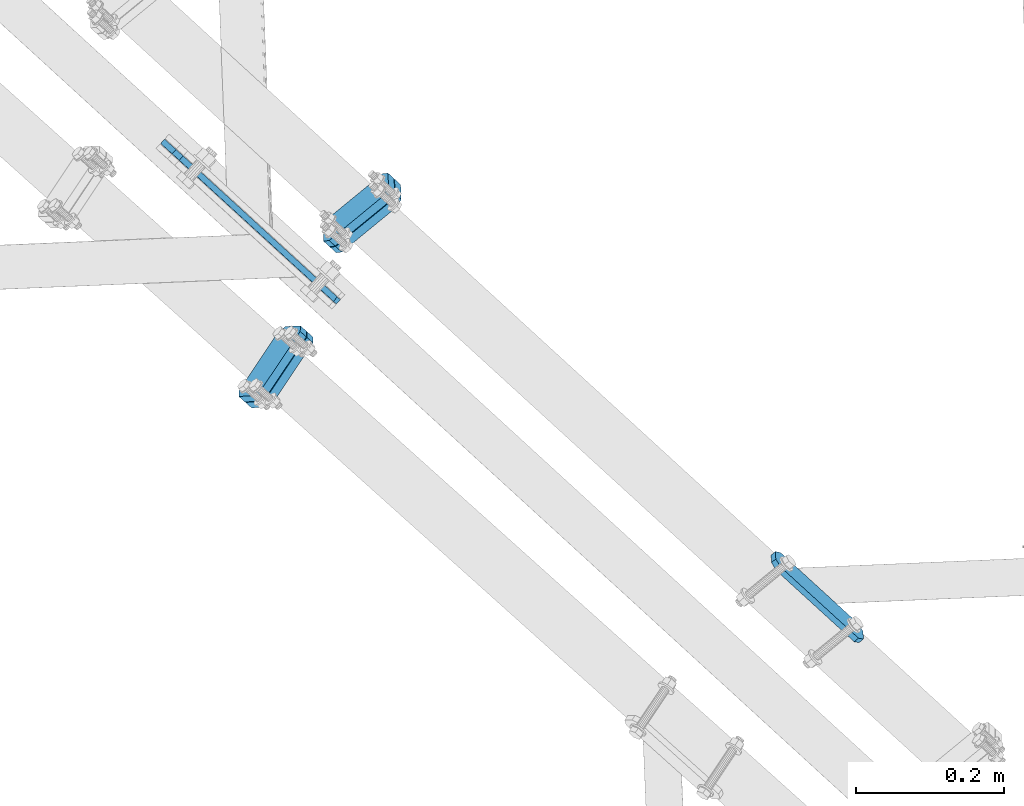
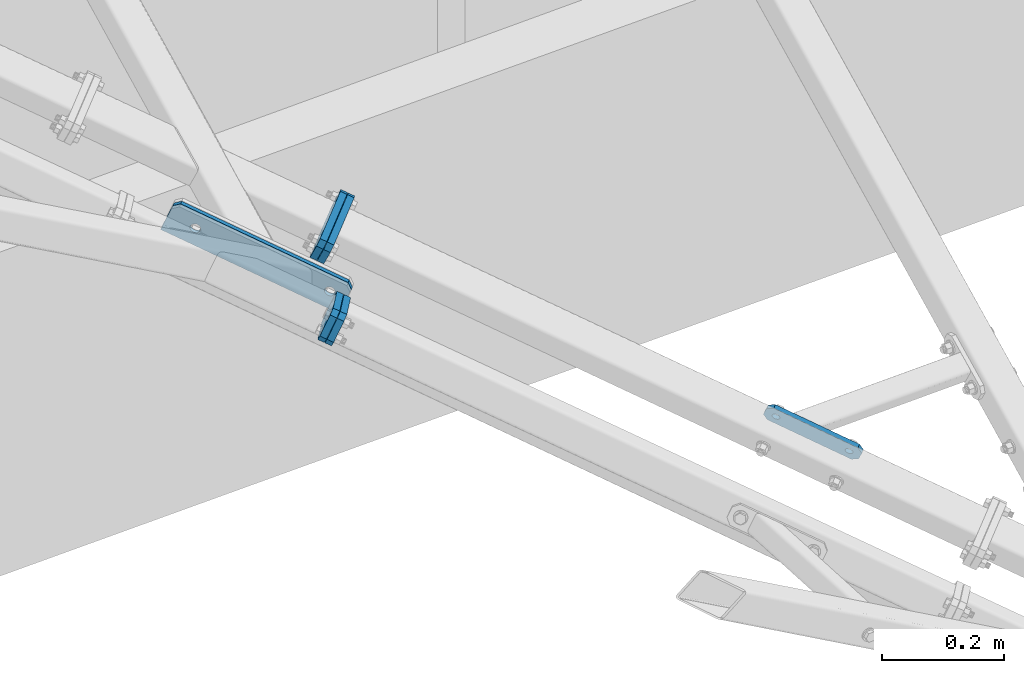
# One storey, part 56 of 288: 6 plates, 42 openings.
"""IFC2X3 building model written with IfcOpenShell, lengths in millimetres."""

from ifc_helpers import new_model, entity, si_unit, converted_unit, point, frame, frame_2d, origin, origin_with_axes, origin_2d_with_axis, place, context, project, spatial, polyline, circle_curve, line_curve, trimmed, segment, composite_curve, circle, outline, extrude, material, layer, layer_set, element, save


model = new_model("IFC2X3")

# Units and contexts
model_context = context("Model", 3, precision=1e-09, world=origin_with_axes())
ifc_project = project(units=[si_unit("LENGTHUNIT", "METRE", prefix="MILLI"), si_unit("AREAUNIT", "SQUARE_METRE"), si_unit("VOLUMEUNIT", "CUBIC_METRE"), converted_unit("PLANEANGLEUNIT", "DEGREE", entity("IfcPlaneAngleMeasure", 0.01745329), si_unit("PLANEANGLEUNIT", "RADIAN"), dimensions=[0, 0, 0, 0, 0, 0, 0])], contexts=[model_context])

# Site, building, storey
site_placement = place(None, origin_with_axes())
site = spatial("IfcSite", under=ifc_project, at=site_placement, Name="Remont ?wietlik?w nad MC w NCPP w Opolu", CompositionType="ELEMENT")
building_placement = place(site_placement, origin_with_axes())
building = spatial("IfcBuilding", under=site, at=building_placement, Name="Konstrukcja 1", CompositionType="ELEMENT")
storey_placement = place(building_placement, origin_with_axes())
storey = spatial("IfcBuildingStorey", under=building, at=storey_placement, Name="Default Storey", CompositionType="ELEMENT", Elevation=0.0)

# Plate, openings
ifc_material = material(Name="S235")
ifc_layer_1 = layer(ifc_material, 12.0)
ifc_layer_set_1 = layer_set([ifc_layer_1], Name="S235")
plate_1_placement = place(None, frame((376.260069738, 14211.481848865, 673.509873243), z_axis=(0.688159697, -0.616779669, -0.382124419), x_axis=(-0.499565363, -0.020836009, -0.866025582)))
plate_1 = element("IfcPlate", 1, at=plate_1_placement, inside=storey, material=ifc_layer_set_1, Name="Endplate#1", ObjectType="Endplate#1", context=model_context, shape_type="SweptSolid", body=[
    extrude(outline(polyline([(0.0, 0.0), (60.0, 0.0), (60.0, 120.0), (0.0, 120.0), (0.0, 0.0)])), origin_with_axes(), (0.0, 0.0, 1.0), 12.0),
])
opening_1_placement = place(plate_1_placement, frame((45.0, 60.0, 12.5), z_axis=(0.0, 0.0, -1.0), x_axis=(1.0, 0.0, 0.0)))
element("IfcOpeningElement", 2, at=opening_1_placement, cuts=plate_1, ObjectType="Opening", context=model_context, shape_type="SweptSolid", body=[
    extrude(circle(Radius=6.001, at=frame_2d((0.0, 45.0), x_axis=(1.0, 0.0))), origin(), (0.0, 0.0, 1.0), 13.0),
])
opening_2_placement = place(plate_1_placement, frame((45.0, 60.0, 12.5), z_axis=(0.0, 0.0, -1.0), x_axis=(1.0, 0.0, 0.0)))
element("IfcOpeningElement", 3, at=opening_2_placement, cuts=plate_1, ObjectType="Opening", context=model_context, shape_type="SweptSolid", body=[
    extrude(circle(Radius=6.001, at=frame_2d((0.0, -45.0), x_axis=(1.0, 0.0))), origin(), (0.0, 0.0, 1.0), 13.0),
])
opening_3_placement = place(plate_1_placement, frame((15.0, 60.0, 12.5), z_axis=(0.0, 0.0, -1.0), x_axis=(1.0, 0.0, 0.0)))
element("IfcOpeningElement", 4, at=opening_3_placement, cuts=plate_1, ObjectType="Opening", context=model_context, shape_type="SweptSolid", body=[
    extrude(circle(Radius=6.001, at=frame_2d((0.0, 45.0), x_axis=(1.0, 0.0))), origin(), (0.0, 0.0, 1.0), 13.0),
])
opening_4_placement = place(plate_1_placement, frame((15.0, 60.0, 12.5), z_axis=(0.0, 0.0, -1.0), x_axis=(1.0, 0.0, 0.0)))
element("IfcOpeningElement", 5, at=opening_4_placement, cuts=plate_1, ObjectType="Opening", context=model_context, shape_type="SweptSolid", body=[
    extrude(circle(Radius=6.001, at=frame_2d((0.0, -45.0), x_axis=(1.0, 0.0))), origin(), (0.0, 0.0, 1.0), 13.0),
])
opening_5_placement = place(plate_1_placement, frame((0.0, 0.0, -0.01), z_axis=(0.0, 0.0, 1.0), x_axis=(1.0, 0.0, 0.0)))
element("IfcOpeningElement", 6, at=opening_5_placement, cuts=plate_1, ObjectType="Opening", context=model_context, shape_type="SweptSolid", body=[
    extrude(outline(composite_curve([segment(trimmed(line_curve((0.0, 0.0), (1.0, 0.0), 10.0), [point((0.0, 0.0))], [point((10.0, 0.0))], True, "CARTESIAN"), True, "CONTINUOUS"), segment(trimmed(circle_curve(frame_2d((10.0, 10.0), x_axis=(-1.0, 0.0)), 10.0), [point((10.0, 0.0))], [point((0.0, 10.0))], False, "CARTESIAN"), True, "CONTINUOUS"), segment(trimmed(line_curve((0.0, 10.0), (0.0, -1.0), 10.0), [point((0.0, 10.0))], [point((0.0, 0.0))], True, "CARTESIAN"), True, "CONTINUOUS")], self_intersect=False)), origin(), (0.0, 0.0, 1.0), 12.02),
])
opening_6_placement = place(plate_1_placement, frame((0.0, 0.0, -0.01), z_axis=(0.0, 0.0, 1.0), x_axis=(1.0, 0.0, 0.0)))
element("IfcOpeningElement", 7, at=opening_6_placement, cuts=plate_1, ObjectType="Opening", context=model_context, shape_type="SweptSolid", body=[
    extrude(outline(composite_curve([segment(trimmed(line_curve((60.0, 0.0), (0.0, 1.0), 10.0), [point((60.0, 0.0))], [point((60.0, 10.0))], True, "CARTESIAN"), True, "CONTINUOUS"), segment(trimmed(circle_curve(frame_2d((50.0, 10.0), x_axis=(-1.0, 0.0)), 10.0), [point((60.0, 10.0))], [point((50.0, 0.0))], False, "CARTESIAN"), True, "CONTINUOUS"), segment(trimmed(line_curve((50.0, 0.0), (1.0, 0.0), 10.0), [point((50.0, 0.0))], [point((60.0, 0.0))], True, "CARTESIAN"), True, "CONTINUOUS")], self_intersect=False)), origin(), (0.0, 0.0, 1.0), 12.02),
])
opening_7_placement = place(plate_1_placement, frame((0.0, 0.0, -0.01), z_axis=(0.0, 0.0, 1.0), x_axis=(1.0, 0.0, 0.0)))
element("IfcOpeningElement", 8, at=opening_7_placement, cuts=plate_1, ObjectType="Opening", context=model_context, shape_type="SweptSolid", body=[
    extrude(outline(composite_curve([segment(trimmed(line_curve((60.0, 120.0), (-1.0, 0.0), 10.0), [point((60.0, 120.0))], [point((50.0, 120.0))], True, "CARTESIAN"), True, "CONTINUOUS"), segment(trimmed(circle_curve(frame_2d((50.0, 110.0), x_axis=(-1.0, 0.0)), 10.0), [point((50.0, 120.0))], [point((60.0, 110.0))], False, "CARTESIAN"), True, "CONTINUOUS"), segment(trimmed(line_curve((60.0, 110.0), (0.0, 1.0), 10.0), [point((60.0, 110.0))], [point((60.0, 120.0))], True, "CARTESIAN"), True, "CONTINUOUS")], self_intersect=False)), origin(), (0.0, 0.0, 1.0), 12.02),
])
opening_8_placement = place(plate_1_placement, frame((0.0, 0.0, -0.01), z_axis=(0.0, 0.0, 1.0), x_axis=(1.0, 0.0, 0.0)))
element("IfcOpeningElement", 9, at=opening_8_placement, cuts=plate_1, ObjectType="Opening", context=model_context, shape_type="SweptSolid", body=[
    extrude(outline(composite_curve([segment(trimmed(line_curve((0.0, 120.0), (0.0, -1.0), 10.0), [point((0.0, 120.0))], [point((0.0, 110.0))], True, "CARTESIAN"), True, "CONTINUOUS"), segment(trimmed(circle_curve(frame_2d((10.0, 110.0), x_axis=(-1.0, 0.0)), 10.0), [point((0.0, 110.0))], [point((10.0, 120.0))], False, "CARTESIAN"), True, "CONTINUOUS"), segment(trimmed(line_curve((10.0, 120.0), (-1.0, 0.0), 10.0), [point((10.0, 120.0))], [point((0.0, 120.0))], True, "CARTESIAN"), True, "CONTINUOUS")], self_intersect=False)), origin(), (0.0, 0.0, 1.0), 12.02),
])

plate_2_placement = place(None, frame((367.313993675, 14219.499984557, 678.477490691), z_axis=(0.688159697, -0.616779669, -0.382124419), x_axis=(-0.499565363, -0.020836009, -0.866025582)))
plate_2 = element("IfcPlate", 10, at=plate_2_placement, inside=storey, material=ifc_layer_set_1, Name="Endplate#2", ObjectType="Endplate#2", context=model_context, shape_type="SweptSolid", body=[
    extrude(outline(polyline([(0.0, 0.0), (60.0, 0.0), (60.0, 120.0), (0.0, 120.0), (0.0, 0.0)])), origin_with_axes(), (0.0, 0.0, 1.0), 12.0),
])
opening_9_placement = place(plate_2_placement, frame((15.0, 60.0, 12.5), z_axis=(0.0, 0.0, -1.0), x_axis=(1.0, 0.0, 0.0)))
element("IfcOpeningElement", 11, at=opening_9_placement, cuts=plate_2, ObjectType="Opening", context=model_context, shape_type="SweptSolid", body=[
    extrude(circle(Radius=6.001, at=frame_2d((0.0, 45.0), x_axis=(1.0, 0.0))), origin(), (0.0, 0.0, 1.0), 13.0),
])
opening_10_placement = place(plate_2_placement, frame((15.0, 60.0, 12.5), z_axis=(0.0, 0.0, -1.0), x_axis=(1.0, 0.0, 0.0)))
element("IfcOpeningElement", 12, at=opening_10_placement, cuts=plate_2, ObjectType="Opening", context=model_context, shape_type="SweptSolid", body=[
    extrude(circle(Radius=6.001, at=frame_2d((0.0, -45.0), x_axis=(1.0, 0.0))), origin(), (0.0, 0.0, 1.0), 13.0),
])
opening_11_placement = place(plate_2_placement, frame((45.0, 60.0, 12.5), z_axis=(0.0, 0.0, -1.0), x_axis=(1.0, 0.0, 0.0)))
element("IfcOpeningElement", 13, at=opening_11_placement, cuts=plate_2, ObjectType="Opening", context=model_context, shape_type="SweptSolid", body=[
    extrude(circle(Radius=6.001, at=frame_2d((0.0, 45.0), x_axis=(1.0, 0.0))), origin(), (0.0, 0.0, 1.0), 13.0),
])
opening_12_placement = place(plate_2_placement, frame((45.0, 60.0, 12.5), z_axis=(0.0, 0.0, -1.0), x_axis=(1.0, 0.0, 0.0)))
element("IfcOpeningElement", 14, at=opening_12_placement, cuts=plate_2, ObjectType="Opening", context=model_context, shape_type="SweptSolid", body=[
    extrude(circle(Radius=6.001, at=frame_2d((0.0, -45.0), x_axis=(1.0, 0.0))), origin(), (0.0, 0.0, 1.0), 13.0),
])
opening_13_placement = place(plate_2_placement, frame((0.0, 0.0, -0.01), z_axis=(0.0, 0.0, 1.0), x_axis=(1.0, 0.0, 0.0)))
element("IfcOpeningElement", 15, at=opening_13_placement, cuts=plate_2, ObjectType="Opening", context=model_context, shape_type="SweptSolid", body=[
    extrude(outline(composite_curve([segment(trimmed(line_curve((0.0, 0.0), (1.0, 0.0), 10.0), [point((0.0, 0.0))], [point((10.0, 0.0))], True, "CARTESIAN"), True, "CONTINUOUS"), segment(trimmed(circle_curve(frame_2d((10.0, 10.0), x_axis=(-1.0, 0.0)), 10.0), [point((10.0, 0.0))], [point((0.0, 10.0))], False, "CARTESIAN"), True, "CONTINUOUS"), segment(trimmed(line_curve((0.0, 10.0), (0.0, -1.0), 10.0), [point((0.0, 10.0))], [point((0.0, 0.0))], True, "CARTESIAN"), True, "CONTINUOUS")], self_intersect=False)), origin(), (0.0, 0.0, 1.0), 12.02),
])
opening_14_placement = place(plate_2_placement, frame((0.0, 0.0, -0.01), z_axis=(0.0, 0.0, 1.0), x_axis=(1.0, 0.0, 0.0)))
element("IfcOpeningElement", 16, at=opening_14_placement, cuts=plate_2, ObjectType="Opening", context=model_context, shape_type="SweptSolid", body=[
    extrude(outline(composite_curve([segment(trimmed(line_curve((60.0, 0.0), (0.0, 1.0), 10.0), [point((60.0, 0.0))], [point((60.0, 10.0))], True, "CARTESIAN"), True, "CONTINUOUS"), segment(trimmed(circle_curve(frame_2d((50.0, 10.0), x_axis=(-1.0, 0.0)), 10.0), [point((60.0, 10.0))], [point((50.0, 0.0))], False, "CARTESIAN"), True, "CONTINUOUS"), segment(trimmed(line_curve((50.0, 0.0), (1.0, 0.0), 10.0), [point((50.0, 0.0))], [point((60.0, 0.0))], True, "CARTESIAN"), True, "CONTINUOUS")], self_intersect=False)), origin(), (0.0, 0.0, 1.0), 12.02),
])
opening_15_placement = place(plate_2_placement, frame((0.0, 0.0, -0.01), z_axis=(0.0, 0.0, 1.0), x_axis=(1.0, 0.0, 0.0)))
element("IfcOpeningElement", 17, at=opening_15_placement, cuts=plate_2, ObjectType="Opening", context=model_context, shape_type="SweptSolid", body=[
    extrude(outline(composite_curve([segment(trimmed(line_curve((60.0, 120.0), (-1.0, 0.0), 10.0), [point((60.0, 120.0))], [point((50.0, 120.0))], True, "CARTESIAN"), True, "CONTINUOUS"), segment(trimmed(circle_curve(frame_2d((50.0, 110.0), x_axis=(-1.0, 0.0)), 10.0), [point((50.0, 120.0))], [point((60.0, 110.0))], False, "CARTESIAN"), True, "CONTINUOUS"), segment(trimmed(line_curve((60.0, 110.0), (0.0, 1.0), 10.0), [point((60.0, 110.0))], [point((60.0, 120.0))], True, "CARTESIAN"), True, "CONTINUOUS")], self_intersect=False)), origin(), (0.0, 0.0, 1.0), 12.02),
])
opening_16_placement = place(plate_2_placement, frame((0.0, 0.0, -0.01), z_axis=(0.0, 0.0, 1.0), x_axis=(1.0, 0.0, 0.0)))
element("IfcOpeningElement", 18, at=opening_16_placement, cuts=plate_2, ObjectType="Opening", context=model_context, shape_type="SweptSolid", body=[
    extrude(outline(composite_curve([segment(trimmed(line_curve((0.0, 120.0), (0.0, -1.0), 10.0), [point((0.0, 120.0))], [point((0.0, 110.0))], True, "CARTESIAN"), True, "CONTINUOUS"), segment(trimmed(circle_curve(frame_2d((10.0, 110.0), x_axis=(-1.0, 0.0)), 10.0), [point((0.0, 110.0))], [point((10.0, 120.0))], False, "CARTESIAN"), True, "CONTINUOUS"), segment(trimmed(line_curve((10.0, 120.0), (-1.0, 0.0), 10.0), [point((10.0, 120.0))], [point((0.0, 120.0))], True, "CARTESIAN"), True, "CONTINUOUS")], self_intersect=False)), origin(), (0.0, 0.0, 1.0), 12.02),
])

plate_3_placement = place(None, frame((552.707154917, 14487.011287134, 692.15548231), z_axis=(-0.683038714, 0.625065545, 0.37782427), x_axis=(-0.019762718, 0.501290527, -0.865053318)))
plate_3 = element("IfcPlate", 19, at=plate_3_placement, inside=storey, material=ifc_layer_set_1, Name="Endplate#1", ObjectType="Endplate#1", context=model_context, shape_type="SweptSolid", body=[
    extrude(outline(polyline([(0.0, 0.0), (60.0, 0.0), (60.0, 120.0), (0.0, 120.0), (0.0, 0.0)])), origin_with_axes(), (0.0, 0.0, 1.0), 12.0),
])
opening_17_placement = place(plate_3_placement, frame((45.0, 60.0, 12.5), z_axis=(0.0, 0.0, -1.0), x_axis=(1.0, 0.0, 0.0)))
element("IfcOpeningElement", 20, at=opening_17_placement, cuts=plate_3, ObjectType="Opening", context=model_context, shape_type="SweptSolid", body=[
    extrude(circle(Radius=6.001, at=frame_2d((0.0, 45.0), x_axis=(1.0, 0.0))), origin(), (0.0, 0.0, 1.0), 13.0),
])
opening_18_placement = place(plate_3_placement, frame((45.0, 60.0, 12.5), z_axis=(0.0, 0.0, -1.0), x_axis=(1.0, 0.0, 0.0)))
element("IfcOpeningElement", 21, at=opening_18_placement, cuts=plate_3, ObjectType="Opening", context=model_context, shape_type="SweptSolid", body=[
    extrude(circle(Radius=6.001, at=frame_2d((0.0, -45.0), x_axis=(1.0, 0.0))), origin(), (0.0, 0.0, 1.0), 13.0),
])
opening_19_placement = place(plate_3_placement, frame((15.0, 60.0, 12.5), z_axis=(0.0, 0.0, -1.0), x_axis=(1.0, 0.0, 0.0)))
element("IfcOpeningElement", 22, at=opening_19_placement, cuts=plate_3, ObjectType="Opening", context=model_context, shape_type="SweptSolid", body=[
    extrude(circle(Radius=6.001, at=frame_2d((0.0, 45.0), x_axis=(1.0, 0.0))), origin(), (0.0, 0.0, 1.0), 13.0),
])
opening_20_placement = place(plate_3_placement, frame((15.0, 60.0, 12.5), z_axis=(0.0, 0.0, -1.0), x_axis=(1.0, 0.0, 0.0)))
element("IfcOpeningElement", 23, at=opening_20_placement, cuts=plate_3, ObjectType="Opening", context=model_context, shape_type="SweptSolid", body=[
    extrude(circle(Radius=6.001, at=frame_2d((0.0, -45.0), x_axis=(1.0, 0.0))), origin(), (0.0, 0.0, 1.0), 13.0),
])
opening_21_placement = place(plate_3_placement, frame((0.0, 0.0, -0.01), z_axis=(0.0, 0.0, 1.0), x_axis=(1.0, 0.0, 0.0)))
element("IfcOpeningElement", 24, at=opening_21_placement, cuts=plate_3, ObjectType="Opening", context=model_context, shape_type="SweptSolid", body=[
    extrude(outline(composite_curve([segment(trimmed(line_curve((0.0, 0.0), (1.0, 0.0), 10.0), [point((0.0, 0.0))], [point((10.0, 0.0))], True, "CARTESIAN"), True, "CONTINUOUS"), segment(trimmed(circle_curve(frame_2d((10.0, 10.0), x_axis=(-1.0, 0.0)), 10.0), [point((10.0, 0.0))], [point((0.0, 10.0))], False, "CARTESIAN"), True, "CONTINUOUS"), segment(trimmed(line_curve((0.0, 10.0), (0.0, -1.0), 10.0), [point((0.0, 10.0))], [point((0.0, 0.0))], True, "CARTESIAN"), True, "CONTINUOUS")], self_intersect=False)), origin(), (0.0, 0.0, 1.0), 12.02),
])
opening_22_placement = place(plate_3_placement, frame((0.0, 0.0, -0.01), z_axis=(0.0, 0.0, 1.0), x_axis=(1.0, 0.0, 0.0)))
element("IfcOpeningElement", 25, at=opening_22_placement, cuts=plate_3, ObjectType="Opening", context=model_context, shape_type="SweptSolid", body=[
    extrude(outline(composite_curve([segment(trimmed(line_curve((60.0, 0.0), (0.0, 1.0), 10.0), [point((60.0, 0.0))], [point((60.0, 10.0))], True, "CARTESIAN"), True, "CONTINUOUS"), segment(trimmed(circle_curve(frame_2d((50.0, 10.0), x_axis=(-1.0, 0.0)), 10.0), [point((60.0, 10.0))], [point((50.0, 0.0))], False, "CARTESIAN"), True, "CONTINUOUS"), segment(trimmed(line_curve((50.0, 0.0), (1.0, 0.0), 10.0), [point((50.0, 0.0))], [point((60.0, 0.0))], True, "CARTESIAN"), True, "CONTINUOUS")], self_intersect=False)), origin(), (0.0, 0.0, 1.0), 12.02),
])
opening_23_placement = place(plate_3_placement, frame((0.0, 0.0, -0.01), z_axis=(0.0, 0.0, 1.0), x_axis=(1.0, 0.0, 0.0)))
element("IfcOpeningElement", 26, at=opening_23_placement, cuts=plate_3, ObjectType="Opening", context=model_context, shape_type="SweptSolid", body=[
    extrude(outline(composite_curve([segment(trimmed(line_curve((0.0, 120.0), (0.0, -1.0), 10.0), [point((0.0, 120.0))], [point((0.0, 110.0))], True, "CARTESIAN"), True, "CONTINUOUS"), segment(trimmed(circle_curve(frame_2d((10.0, 110.0), x_axis=(-1.0, 0.0)), 10.0), [point((0.0, 110.0))], [point((10.0, 120.0))], False, "CARTESIAN"), True, "CONTINUOUS"), segment(trimmed(line_curve((10.0, 120.0), (-1.0, 0.0), 10.0), [point((10.0, 120.0))], [point((0.0, 120.0))], True, "CARTESIAN"), True, "CONTINUOUS")], self_intersect=False)), origin(), (0.0, 0.0, 1.0), 12.02),
])
opening_24_placement = place(plate_3_placement, frame((0.0, 0.0, -0.01), z_axis=(0.0, 0.0, 1.0), x_axis=(1.0, 0.0, 0.0)))
element("IfcOpeningElement", 27, at=opening_24_placement, cuts=plate_3, ObjectType="Opening", context=model_context, shape_type="SweptSolid", body=[
    extrude(outline(composite_curve([segment(trimmed(line_curve((60.0, 120.0), (-1.0, 0.0), 10.0), [point((60.0, 120.0))], [point((50.0, 120.0))], True, "CARTESIAN"), True, "CONTINUOUS"), segment(trimmed(circle_curve(frame_2d((50.0, 110.0), x_axis=(-1.0, 0.0)), 10.0), [point((50.0, 120.0))], [point((60.0, 110.0))], False, "CARTESIAN"), True, "CONTINUOUS"), segment(trimmed(line_curve((60.0, 110.0), (0.0, 1.0), 10.0), [point((60.0, 110.0))], [point((60.0, 120.0))], True, "CARTESIAN"), True, "CONTINUOUS")], self_intersect=False)), origin(), (0.0, 0.0, 1.0), 12.02),
])

plate_4_placement = place(None, frame((561.586658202, 14478.885435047, 687.243766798), z_axis=(-0.683038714, 0.625065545, 0.37782427), x_axis=(-0.019762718, 0.501290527, -0.865053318)))
plate_4 = element("IfcPlate", 28, at=plate_4_placement, inside=storey, material=ifc_layer_set_1, Name="Endplate#2", ObjectType="Endplate#2", context=model_context, shape_type="SweptSolid", body=[
    extrude(outline(polyline([(0.0, 0.0), (60.0, 0.0), (60.0, 120.0), (0.0, 120.0), (0.0, 0.0)])), origin_with_axes(), (0.0, 0.0, 1.0), 12.0),
])
opening_25_placement = place(plate_4_placement, frame((15.0, 60.0, 12.5), z_axis=(0.0, 0.0, -1.0), x_axis=(1.0, 0.0, 0.0)))
element("IfcOpeningElement", 29, at=opening_25_placement, cuts=plate_4, ObjectType="Opening", context=model_context, shape_type="SweptSolid", body=[
    extrude(circle(Radius=6.001, at=frame_2d((0.0, 45.0), x_axis=(1.0, 0.0))), origin(), (0.0, 0.0, 1.0), 13.0),
])
opening_26_placement = place(plate_4_placement, frame((15.0, 60.0, 12.5), z_axis=(0.0, 0.0, -1.0), x_axis=(1.0, 0.0, 0.0)))
element("IfcOpeningElement", 30, at=opening_26_placement, cuts=plate_4, ObjectType="Opening", context=model_context, shape_type="SweptSolid", body=[
    extrude(circle(Radius=6.001, at=frame_2d((0.0, -45.0), x_axis=(1.0, 0.0))), origin(), (0.0, 0.0, 1.0), 13.0),
])
opening_27_placement = place(plate_4_placement, frame((45.0, 60.0, 12.5), z_axis=(0.0, 0.0, -1.0), x_axis=(1.0, 0.0, 0.0)))
element("IfcOpeningElement", 31, at=opening_27_placement, cuts=plate_4, ObjectType="Opening", context=model_context, shape_type="SweptSolid", body=[
    extrude(circle(Radius=6.001, at=frame_2d((0.0, 45.0), x_axis=(1.0, 0.0))), origin(), (0.0, 0.0, 1.0), 13.0),
])
opening_28_placement = place(plate_4_placement, frame((45.0, 60.0, 12.5), z_axis=(0.0, 0.0, -1.0), x_axis=(1.0, 0.0, 0.0)))
element("IfcOpeningElement", 32, at=opening_28_placement, cuts=plate_4, ObjectType="Opening", context=model_context, shape_type="SweptSolid", body=[
    extrude(circle(Radius=6.001, at=frame_2d((0.0, -45.0), x_axis=(1.0, 0.0))), origin(), (0.0, 0.0, 1.0), 13.0),
])
opening_29_placement = place(plate_4_placement, frame((0.0, 0.0, -0.01), z_axis=(0.0, 0.0, 1.0), x_axis=(1.0, 0.0, 0.0)))
element("IfcOpeningElement", 33, at=opening_29_placement, cuts=plate_4, ObjectType="Opening", context=model_context, shape_type="SweptSolid", body=[
    extrude(outline(composite_curve([segment(trimmed(line_curve((0.0, 0.0), (1.0, 0.0), 10.0), [point((0.0, 0.0))], [point((10.0, 0.0))], True, "CARTESIAN"), True, "CONTINUOUS"), segment(trimmed(circle_curve(frame_2d((10.0, 10.0), x_axis=(-1.0, 0.0)), 10.0), [point((10.0, 0.0))], [point((0.0, 10.0))], False, "CARTESIAN"), True, "CONTINUOUS"), segment(trimmed(line_curve((0.0, 10.0), (0.0, -1.0), 10.0), [point((0.0, 10.0))], [point((0.0, 0.0))], True, "CARTESIAN"), True, "CONTINUOUS")], self_intersect=False)), origin(), (0.0, 0.0, 1.0), 12.02),
])
opening_30_placement = place(plate_4_placement, frame((0.0, 0.0, -0.01), z_axis=(0.0, 0.0, 1.0), x_axis=(1.0, 0.0, 0.0)))
element("IfcOpeningElement", 34, at=opening_30_placement, cuts=plate_4, ObjectType="Opening", context=model_context, shape_type="SweptSolid", body=[
    extrude(outline(composite_curve([segment(trimmed(line_curve((60.0, 0.0), (0.0, 1.0), 10.0), [point((60.0, 0.0))], [point((60.0, 10.0))], True, "CARTESIAN"), True, "CONTINUOUS"), segment(trimmed(circle_curve(frame_2d((50.0, 10.0), x_axis=(-1.0, 0.0)), 10.0), [point((60.0, 10.0))], [point((50.0, 0.0))], False, "CARTESIAN"), True, "CONTINUOUS"), segment(trimmed(line_curve((50.0, 0.0), (1.0, 0.0), 10.0), [point((50.0, 0.0))], [point((60.0, 0.0))], True, "CARTESIAN"), True, "CONTINUOUS")], self_intersect=False)), origin(), (0.0, 0.0, 1.0), 12.02),
])
opening_31_placement = place(plate_4_placement, frame((0.0, 0.0, -0.01), z_axis=(0.0, 0.0, 1.0), x_axis=(1.0, 0.0, 0.0)))
element("IfcOpeningElement", 35, at=opening_31_placement, cuts=plate_4, ObjectType="Opening", context=model_context, shape_type="SweptSolid", body=[
    extrude(outline(composite_curve([segment(trimmed(line_curve((0.0, 120.0), (0.0, -1.0), 10.0), [point((0.0, 120.0))], [point((0.0, 110.0))], True, "CARTESIAN"), True, "CONTINUOUS"), segment(trimmed(circle_curve(frame_2d((10.0, 110.0), x_axis=(-1.0, 0.0)), 10.0), [point((0.0, 110.0))], [point((10.0, 120.0))], False, "CARTESIAN"), True, "CONTINUOUS"), segment(trimmed(line_curve((10.0, 120.0), (-1.0, 0.0), 10.0), [point((10.0, 120.0))], [point((0.0, 120.0))], True, "CARTESIAN"), True, "CONTINUOUS")], self_intersect=False)), origin(), (0.0, 0.0, 1.0), 12.02),
])
opening_32_placement = place(plate_4_placement, frame((0.0, 0.0, -0.01), z_axis=(0.0, 0.0, 1.0), x_axis=(1.0, 0.0, 0.0)))
element("IfcOpeningElement", 36, at=opening_32_placement, cuts=plate_4, ObjectType="Opening", context=model_context, shape_type="SweptSolid", body=[
    extrude(outline(composite_curve([segment(trimmed(line_curve((60.0, 120.0), (-1.0, 0.0), 10.0), [point((60.0, 120.0))], [point((50.0, 120.0))], True, "CARTESIAN"), True, "CONTINUOUS"), segment(trimmed(circle_curve(frame_2d((50.0, 110.0), x_axis=(-1.0, 0.0)), 10.0), [point((50.0, 120.0))], [point((60.0, 110.0))], False, "CARTESIAN"), True, "CONTINUOUS"), segment(trimmed(line_curve((60.0, 110.0), (0.0, 1.0), 10.0), [point((60.0, 110.0))], [point((60.0, 120.0))], True, "CARTESIAN"), True, "CONTINUOUS")], self_intersect=False)), origin(), (0.0, 0.0, 1.0), 12.02),
])

ifc_layer_2 = layer(ifc_material, 8.0)
ifc_layer_set_2 = layer_set([ifc_layer_2], Name="S235")
plate_5_placement = place(None, frame((1151.543297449, 13906.464771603, 332.029831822), z_axis=(0.730114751, 0.598331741, 0.330047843), x_axis=(-0.02135117, 0.502742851, -0.864172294)))
plate_5 = element("IfcPlate", 37, at=plate_5_placement, inside=storey, material=ifc_layer_set_2, Name="-", ObjectType="-", context=model_context, shape_type="SweptSolid", body=[
    extrude(outline(polyline([(0.0, -40.0), (39.992663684, -40.0), (39.992663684, 133.00036478), (0.0, 133.00036478), (0.0, -40.0)])), origin_with_axes(), (0.0, 0.0, 1.0), 8.0),
])
opening_33_placement = place(plate_5_placement, frame((26.99549754, 113.00036478, -0.5), z_axis=(0.0, 0.0, -1.0), x_axis=(-1.0, 0.0, 0.0)))
element("IfcOpeningElement", 38, at=opening_33_placement, cuts=plate_5, ObjectType="Opening", context=model_context, shape_type="SweptSolid", body=[
    extrude(circle(Radius=7.001, at=frame_2d((7.001, 0.0), x_axis=(1.0, 0.0))), origin(), (0.0, 0.0, -1.0), 9.0),
])
opening_34_placement = place(plate_5_placement, frame((27.001000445, -20.0, -0.5), z_axis=(0.0, 0.0, -1.0), x_axis=(-1.0, 0.0, 0.0)))
element("IfcOpeningElement", 39, at=opening_34_placement, cuts=plate_5, ObjectType="Opening", context=model_context, shape_type="SweptSolid", body=[
    extrude(circle(Radius=7.001, at=frame_2d((7.001, 0.0), x_axis=(1.0, 0.0))), origin(), (0.0, 0.0, -1.0), 9.0),
])
opening_35_placement = place(plate_5_placement, frame((0.0, 0.0, -0.01), z_axis=(0.0, 0.0, 1.0), x_axis=(1.0, 0.0, 0.0)))
element("IfcOpeningElement", 40, at=opening_35_placement, cuts=plate_5, ObjectType="Opening", context=model_context, shape_type="SweptSolid", body=[
    extrude(outline(composite_curve([segment(trimmed(line_curve((0.0, -40.0), (1.0, 0.0), 10.0), [point((0.0, -40.0))], [point((10.0, -40.0))], True, "CARTESIAN"), True, "CONTINUOUS"), segment(trimmed(circle_curve(frame_2d((10.0, -30.0), x_axis=(-1.0, 0.0)), 10.0), [point((10.0, -40.0))], [point((0.0, -30.0))], False, "CARTESIAN"), True, "CONTINUOUS"), segment(trimmed(line_curve((0.0, -30.0), (0.0, -1.0), 10.0), [point((0.0, -30.0))], [point((0.0, -40.0))], True, "CARTESIAN"), True, "CONTINUOUS")], self_intersect=False)), origin(), (0.0, 0.0, 1.0), 8.02),
])
opening_36_placement = place(plate_5_placement, frame((0.0, 0.0, -0.01), z_axis=(0.0, 0.0, 1.0), x_axis=(1.0, 0.0, 0.0)))
element("IfcOpeningElement", 41, at=opening_36_placement, cuts=plate_5, ObjectType="Opening", context=model_context, shape_type="SweptSolid", body=[
    extrude(outline(composite_curve([segment(trimmed(line_curve((39.992663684, -40.0), (0.0, 1.0), 10.0), [point((39.992663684, -40.0))], [point((39.992663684, -30.0))], True, "CARTESIAN"), True, "CONTINUOUS"), segment(trimmed(circle_curve(frame_2d((29.992663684, -30.0), x_axis=(-1.0, 0.0)), 10.0), [point((39.992663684, -30.0))], [point((29.992663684, -40.0))], False, "CARTESIAN"), True, "CONTINUOUS"), segment(trimmed(line_curve((29.992663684, -40.0), (1.0, 0.0), 10.0), [point((29.992663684, -40.0))], [point((39.992663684, -40.0))], True, "CARTESIAN"), True, "CONTINUOUS")], self_intersect=False)), origin(), (0.0, 0.0, 1.0), 8.02),
])
opening_37_placement = place(plate_5_placement, frame((0.0, 0.0, -0.01), z_axis=(0.0, 0.0, 1.0), x_axis=(1.0, 0.0, 0.0)))
element("IfcOpeningElement", 42, at=opening_37_placement, cuts=plate_5, ObjectType="Opening", context=model_context, shape_type="SweptSolid", body=[
    extrude(outline(composite_curve([segment(trimmed(line_curve((0.0, 133.00036478), (0.0, -1.0), 10.0), [point((0.0, 133.00036478))], [point((0.0, 123.00036478))], True, "CARTESIAN"), True, "CONTINUOUS"), segment(trimmed(circle_curve(frame_2d((10.0, 123.00036478), x_axis=(-1.0, 0.0)), 10.0), [point((0.0, 123.00036478))], [point((10.0, 133.00036478))], False, "CARTESIAN"), True, "CONTINUOUS"), segment(trimmed(line_curve((10.0, 133.00036478), (-1.0, 0.0), 10.0), [point((10.0, 133.00036478))], [point((0.0, 133.00036478))], True, "CARTESIAN"), True, "CONTINUOUS")], self_intersect=False)), origin(), (0.0, 0.0, 1.0), 8.02),
])
opening_38_placement = place(plate_5_placement, frame((0.0, 0.0, -0.01), z_axis=(0.0, 0.0, 1.0), x_axis=(1.0, 0.0, 0.0)))
element("IfcOpeningElement", 43, at=opening_38_placement, cuts=plate_5, ObjectType="Opening", context=model_context, shape_type="SweptSolid", body=[
    extrude(outline(composite_curve([segment(trimmed(line_curve((39.992663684, 133.00036478), (-1.0, 0.0), 10.0), [point((39.992663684, 133.00036478))], [point((29.992663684, 133.00036478))], True, "CARTESIAN"), True, "CONTINUOUS"), segment(trimmed(circle_curve(frame_2d((29.992663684, 123.00036478), x_axis=(-1.0, 0.0)), 10.0), [point((29.992663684, 133.00036478))], [point((39.992663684, 123.00036478))], False, "CARTESIAN"), True, "CONTINUOUS"), segment(trimmed(line_curve((39.992663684, 123.00036478), (0.0, 1.0), 10.0), [point((39.992663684, 123.00036478))], [point((39.992663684, 133.00036478))], True, "CARTESIAN"), True, "CONTINUOUS")], self_intersect=False)), origin(), (0.0, 0.0, 1.0), 8.02),
])

plate_6_placement = place(None, frame((458.365974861, 14356.816806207, 555.97146469), z_axis=(0.67400264, 0.738719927, -0.003648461), x_axis=(-0.682725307, 0.62478468, 0.378853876)))
plate_6 = element("IfcPlate", 44, at=plate_6_placement, inside=storey, material=ifc_layer_set_2, Name="Plate", ObjectType="Plate", context=model_context, shape_type="SweptSolid", body=[
    extrude(outline(polyline([(0.0, 0.0), (324.33, 0.0), (324.33, 65.0), (0.0, 65.0), (0.0, 0.0)])), origin_with_axes(), (0.0, 0.0, 1.0), 8.0),
])
opening_39_placement = place(plate_6_placement, frame((0.0, 0.0, -0.01), z_axis=(0.0, 0.0, 1.0), x_axis=(1.0, 0.0, 0.0)))
element("IfcOpeningElement", 45, at=opening_39_placement, cuts=plate_6, ObjectType="Opening", context=model_context, shape_type="SweptSolid", body=[
    extrude(outline(composite_curve([segment(trimmed(line_curve((324.33, 65.0), (-1.0, 0.0), 10.0), [point((324.33, 65.0))], [point((314.33, 65.0))], True, "CARTESIAN"), True, "CONTINUOUS"), segment(trimmed(circle_curve(frame_2d((314.33, 55.0), x_axis=(-1.0, 0.0)), 10.0), [point((314.33, 65.0))], [point((324.33, 55.0))], False, "CARTESIAN"), True, "CONTINUOUS"), segment(trimmed(line_curve((324.33, 55.0), (0.0, 1.0), 10.0), [point((324.33, 55.0))], [point((324.33, 65.0))], True, "CARTESIAN"), True, "CONTINUOUS")], self_intersect=False)), origin(), (0.0, 0.0, 1.0), 8.02),
])
opening_40_placement = place(plate_6_placement, frame((0.0, 0.0, -0.01), z_axis=(0.0, 0.0, 1.0), x_axis=(1.0, 0.0, 0.0)))
element("IfcOpeningElement", 46, at=opening_40_placement, cuts=plate_6, ObjectType="Opening", context=model_context, shape_type="SweptSolid", body=[
    extrude(outline(composite_curve([segment(trimmed(line_curve((0.0, 65.0), (0.0, -1.0), 10.0), [point((0.0, 65.0))], [point((0.0, 55.0))], True, "CARTESIAN"), True, "CONTINUOUS"), segment(trimmed(circle_curve(frame_2d((10.0, 55.0), x_axis=(-1.0, 0.0)), 10.0), [point((0.0, 55.0))], [point((10.0, 65.0))], False, "CARTESIAN"), True, "CONTINUOUS"), segment(trimmed(line_curve((10.0, 65.0), (-1.0, 0.0), 10.0), [point((10.0, 65.0))], [point((0.0, 65.0))], True, "CARTESIAN"), True, "CONTINUOUS")], self_intersect=False)), origin(), (0.0, 0.0, 1.0), 8.02),
])
opening_41_placement = place(plate_6_placement, frame((274.328192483, 32.475001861, 8.5), z_axis=(0.0, 0.0, -1.0), x_axis=(0.0, 1.0, 0.0)))
element("IfcOpeningElement", 47, at=opening_41_placement, cuts=plate_6, ObjectType="Opening", context=model_context, shape_type="SweptSolid", body=[
    extrude(circle(Radius=9.001, at=origin_2d_with_axis()), origin(), (0.0, 0.0, 1.0), 9.0),
])
opening_42_placement = place(plate_6_placement, frame((29.998628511, 32.955059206, 8.5), z_axis=(0.0, 0.0, -1.0), x_axis=(0.0, 1.0, 0.0)))
element("IfcOpeningElement", 48, at=opening_42_placement, cuts=plate_6, ObjectType="Opening", context=model_context, shape_type="SweptSolid", body=[
    extrude(circle(Radius=9.001, at=origin_2d_with_axis()), origin(), (0.0, 0.0, 1.0), 9.0),
])

save(model, "model.ifc")
